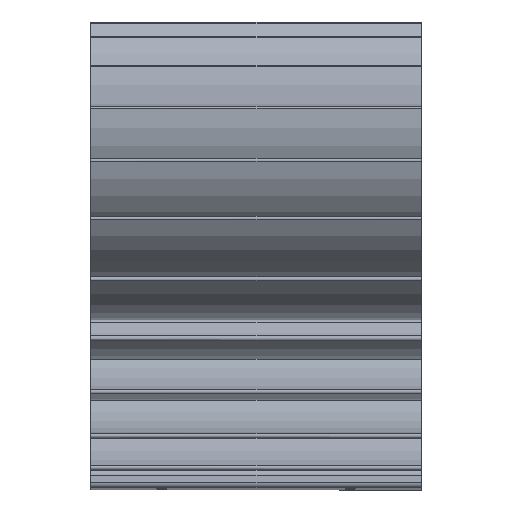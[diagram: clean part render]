
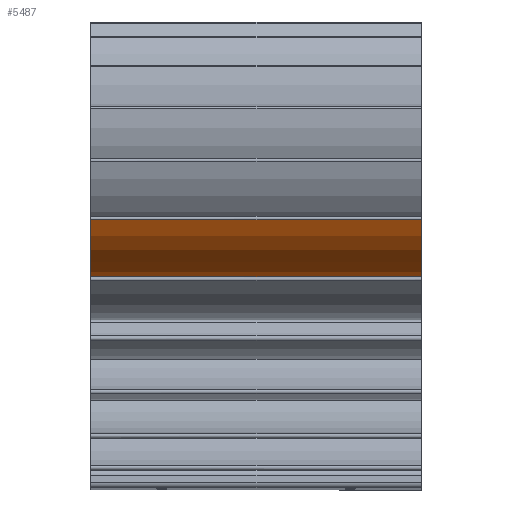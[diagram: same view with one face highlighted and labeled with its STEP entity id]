
A CAD part, left-side view. The second image highlights one B-rep face of the part: STEP entity #5487.
In plain terms, the highlighted cylindrical face has radius 24 mm (diameter 48 mm), a partial arc.
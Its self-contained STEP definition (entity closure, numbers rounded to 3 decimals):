
#150=CARTESIAN_POINT('',(-27.453,0.,18.22));
#151=DIRECTION('',(0.,1.,0.));
#152=DIRECTION('',(0.212,0.,-0.977));
#153=AXIS2_PLACEMENT_3D('',#150,#151,#152);
#155=CARTESIAN_POINT('',(-49.011,0.,7.678));
#1004=CARTESIAN_POINT('',(-27.453,70.,18.22));
#1005=DIRECTION('',(0.,1.,0.));
#1006=DIRECTION('',(0.212,0.,-0.977));
#1007=AXIS2_PLACEMENT_3D('',#1004,#1005,#1006);
#2126=DIRECTION('',(0.,-1.,0.));
#2127=VECTOR('',#2126,70.);
#2128=CARTESIAN_POINT('',(-49.011,70.,7.678));
#2129=LINE('',#2128,#2127);
#2130=DIRECTION('',(0.,-1.,0.));
#2131=VECTOR('',#2130,70.);
#2132=CARTESIAN_POINT('',(-22.358,70.,-5.233));
#2133=LINE('',#2132,#2131);
#3114=CARTESIAN_POINT('',(-22.358,70.,-5.233));
#3115=CARTESIAN_POINT('',(-22.358,0.,
-5.233));
#3116=VERTEX_POINT('',#3114);
#3117=VERTEX_POINT('',#3115);
#3382=VERTEX_POINT('',#155);
#3384=CARTESIAN_POINT('',(-49.011,70.,7.678));
#3385=VERTEX_POINT('',#3384);
#5475=CARTESIAN_POINT('',(-27.453,70.,18.22));
#5476=DIRECTION('',(0.,1.,0.));
#5477=DIRECTION('',(0.707,0.,-0.707));
#5478=AXIS2_PLACEMENT_3D('',#5475,#5476,#5477);
#5479=CYLINDRICAL_SURFACE('',#5478,24.);
#5481=ORIENTED_EDGE('',*,*,#5480,.T.);
#5482=ORIENTED_EDGE('',*,*,#3707,.F.);
#5483=ORIENTED_EDGE('',*,*,#5469,.F.);
#5484=ORIENTED_EDGE('',*,*,#4237,.T.);
#5485=EDGE_LOOP('',(#5481,#5482,#5483,#5484));
#5486=FACE_OUTER_BOUND('',#5485,.F.);
#5487=ADVANCED_FACE('',(#5486),#5479,.T.);
#154=CIRCLE('',#153,24.);
#1008=CIRCLE('',#1007,24.);
#3707=EDGE_CURVE('',#3117,#3382,#154,.T.);
#4237=EDGE_CURVE('',#3116,#3385,#1008,.T.);
#5469=EDGE_CURVE('',#3116,#3117,#2133,.T.);
#5480=EDGE_CURVE('',#3385,#3382,#2129,.T.);
